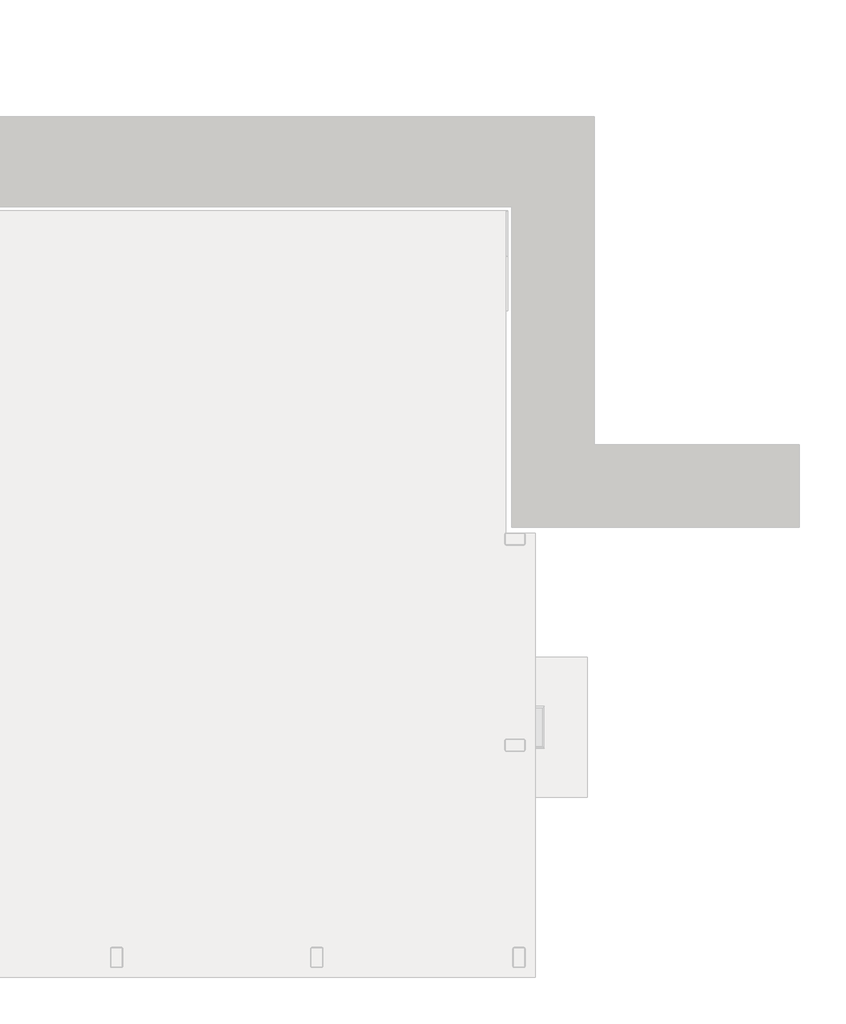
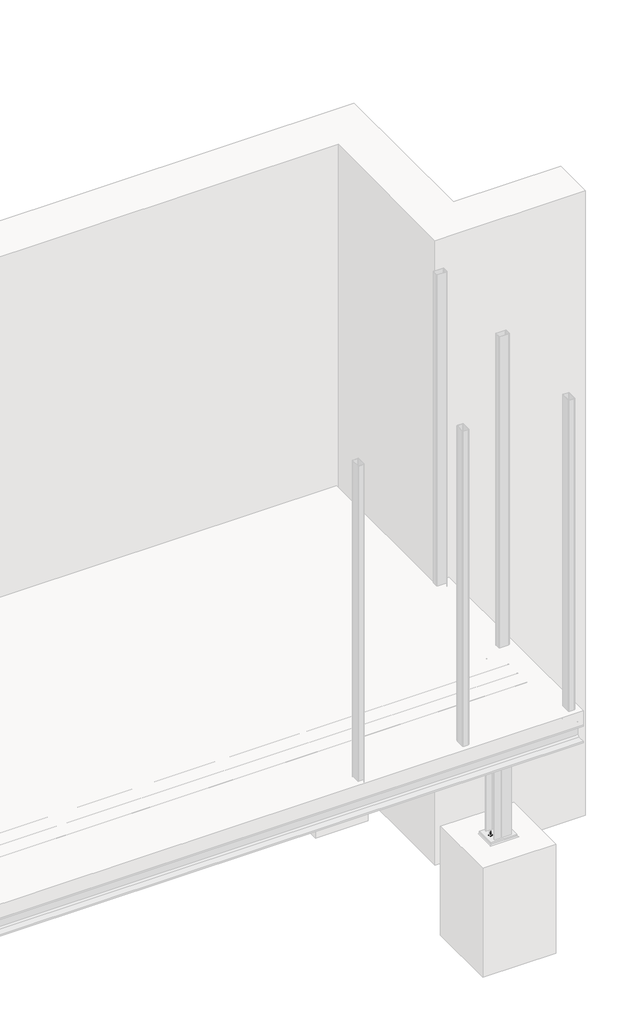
# One storey, part 35 of 36: 6 assemblies.
"""IFC4 building model written with IfcOpenShell, lengths in millimetres."""

from ifc_helpers import new_model, si_unit, point, frame, frame_2d, origin, place, context, project, spatial, polyline, circle_curve, trimmed, segment, composite_curve, outline, extrude, faceted_brep, element, save

model = new_model("IFC4")

# Units and contexts
model_context = context("Model", 3, world=origin())
ifc_project = project(units=[si_unit("LENGTHUNIT", "METRE", prefix="MILLI")], contexts=[model_context])

# Site, building, storey
site = spatial("IfcSite", under=ifc_project)
building = spatial("IfcBuilding", under=site)
storey = spatial("IfcBuildingStorey", under=building, Name="Základy", Elevation=-1200.0)

# Assemblies
placement = place(None, origin())
element("IfcElementAssembly", 1, at=placement, inside=storey, context=model_context, shape_type="SweptSolid", body=[
    extrude(outline(composite_curve([segment(polyline([(16090.0, 1193.6), (16090.0, 1146.4)]), True, "CONTINUOUS"), segment(trimmed(circle_curve(frame_2d((16083.6, 1146.4)), 6.4), [point((16090.0, 1146.4))], [point((16083.6, 1140.0))], False, "CARTESIAN"), True, "CONTINUOUS"), segment(polyline([(16083.6, 1140.0), (15996.4, 1140.0)]), True, "CONTINUOUS"), segment(trimmed(circle_curve(frame_2d((15996.4, 1146.4)), 6.4), [point((15996.4, 1140.0))], [point((15990.0, 1146.4))], False, "CARTESIAN"), True, "CONTINUOUS"), segment(polyline([(15990.0, 1146.4), (15990.0, 1193.6)]), True, "CONTINUOUS"), segment(trimmed(circle_curve(frame_2d((15996.4, 1193.6)), 6.4), [point((15990.0, 1193.6))], [point((15996.4, 1200.0))], False, "CARTESIAN"), True, "CONTINUOUS"), segment(polyline([(15996.4, 1200.0), (16083.6, 1200.0)]), True, "CONTINUOUS"), segment(trimmed(circle_curve(frame_2d((16083.6, 1193.6)), 6.4), [point((16083.6, 1200.0))], [point((16090.0, 1193.6))], False, "CARTESIAN"), True, "CONTINUOUS")], self_intersect=False), holes=[composite_curve([segment(trimmed(circle_curve(frame_2d((16083.6, 1193.6)), 3.2), [point((16086.8, 1193.6))], [point((16083.6, 1196.8))], True, "CARTESIAN"), True, "CONTINUOUS"), segment(polyline([(16083.6, 1196.8), (15996.4, 1196.8)]), True, "CONTINUOUS"), segment(trimmed(circle_curve(frame_2d((15996.4, 1193.6)), 3.2), [point((15996.4, 1196.8))], [point((15993.2, 1193.6))], True, "CARTESIAN"), True, "CONTINUOUS"), segment(polyline([(15993.2, 1193.6), (15993.2, 1146.4)]), True, "CONTINUOUS"), segment(trimmed(circle_curve(frame_2d((15996.4, 1146.4)), 3.2), [point((15993.2, 1146.4))], [point((15996.4, 1143.2))], True, "CARTESIAN"), True, "CONTINUOUS"), segment(polyline([(15996.4, 1143.2), (16083.6, 1143.2)]), True, "CONTINUOUS"), segment(trimmed(circle_curve(frame_2d((16083.6, 1146.4)), 3.2), [point((16083.6, 1143.2))], [point((16086.8, 1146.4))], True, "CARTESIAN"), True, "CONTINUOUS"), segment(polyline([(16086.8, 1146.4), (16086.8, 1193.6)]), True, "CONTINUOUS")], self_intersect=False)]), frame((0.0, 0.0, -160.0), z_axis=(0.0, 0.0, 1.0), x_axis=(1.0, 0.0, 0.0)), (0.0, 0.0, 1.0), 3280.0),
])
element("IfcElementAssembly", 2, at=placement, inside=storey, context=model_context, shape_type="SweptSolid", body=[
    extrude(outline(polyline([(16400.0, 1610.0), (16400.0, 910.0), (15700.0, 910.0), (15700.0, 1610.0), (16400.0, 1610.0)])), frame((0.0, 0.0, -3100.0), z_axis=(0.0, 0.0, 1.0), x_axis=(1.0, 0.0, 0.0)), (0.0, 0.0, 1.0), 1100.0),
])
element("IfcElementAssembly", 3, at=placement, inside=storey, context=model_context, shape_type="SweptSolid", body=[
    extrude(outline(composite_curve([segment(polyline([(16036.4, 160.0), (16083.6, 160.0)]), True, "CONTINUOUS"), segment(trimmed(circle_curve(frame_2d((16083.6, 153.6)), 6.4), [point((16083.6, 160.0))], [point((16090.0, 153.6))], False, "CARTESIAN"), True, "CONTINUOUS"), segment(polyline([(16090.0, 153.6), (16090.0, 66.4)]), True, "CONTINUOUS"), segment(trimmed(circle_curve(frame_2d((16083.6, 66.4)), 6.4), [point((16090.0, 66.4))], [point((16083.6, 60.0))], False, "CARTESIAN"), True, "CONTINUOUS"), segment(polyline([(16083.6, 60.0), (16036.4, 60.0)]), True, "CONTINUOUS"), segment(trimmed(circle_curve(frame_2d((16036.4, 66.4)), 6.4), [point((16036.4, 60.0))], [point((16030.0, 66.4))], False, "CARTESIAN"), True, "CONTINUOUS"), segment(polyline([(16030.0, 66.4), (16030.0, 153.6)]), True, "CONTINUOUS"), segment(trimmed(circle_curve(frame_2d((16036.4, 153.6)), 6.4), [point((16030.0, 153.6))], [point((16036.4, 160.0))], False, "CARTESIAN"), True, "CONTINUOUS")], self_intersect=False), holes=[composite_curve([segment(trimmed(circle_curve(frame_2d((16036.4, 153.6)), 3.2), [point((16036.4, 156.8))], [point((16033.2, 153.6))], True, "CARTESIAN"), True, "CONTINUOUS"), segment(polyline([(16033.2, 153.6), (16033.2, 66.4)]), True, "CONTINUOUS"), segment(trimmed(circle_curve(frame_2d((16036.4, 66.4)), 3.2), [point((16033.2, 66.4))], [point((16036.4, 63.2))], True, "CARTESIAN"), True, "CONTINUOUS"), segment(polyline([(16036.4, 63.2), (16083.6, 63.2)]), True, "CONTINUOUS"), segment(trimmed(circle_curve(frame_2d((16083.6, 66.4)), 3.2), [point((16083.6, 63.2))], [point((16086.8, 66.4))], True, "CARTESIAN"), True, "CONTINUOUS"), segment(polyline([(16086.8, 66.4), (16086.8, 153.6)]), True, "CONTINUOUS"), segment(trimmed(circle_curve(frame_2d((16083.6, 153.6)), 3.2), [point((16086.8, 153.6))], [point((16083.6, 156.8))], True, "CARTESIAN"), True, "CONTINUOUS"), segment(polyline([(16083.6, 156.8), (16036.4, 156.8)]), True, "CONTINUOUS")], self_intersect=False)]), frame((0.0, 0.0, -160.0), z_axis=(0.0, 0.0, 1.0), x_axis=(1.0, 0.0, 0.0)), (0.0, 0.0, 1.0), 3280.0),
])
element("IfcElementAssembly", 4, at=placement, inside=storey, context=model_context, shape_type="SweptSolid", body=[
    extrude(outline(composite_curve([segment(polyline([(16130.0, 1184.0), (15970.0, 1184.0), (15970.0, 1193.0), (16032.0, 1193.0)]), True, "CONTINUOUS"), segment(trimmed(circle_curve(frame_2d((16032.0, 1208.0)), 15.0), [point((16032.0, 1193.0))], [point((16047.0, 1208.0))], True, "CARTESIAN"), True, "CONTINUOUS"), segment(polyline([(16047.0, 1208.0), (16047.0, 1312.0)]), True, "CONTINUOUS"), segment(trimmed(circle_curve(frame_2d((16032.0, 1312.0)), 15.0), [point((16047.0, 1312.0))], [point((16032.0, 1327.0))], True, "CARTESIAN"), True, "CONTINUOUS"), segment(polyline([(16032.0, 1327.0), (15970.0, 1327.0), (15970.0, 1336.0), (16130.0, 1336.0), (16130.0, 1327.0), (16068.0, 1327.0)]), True, "CONTINUOUS"), segment(trimmed(circle_curve(frame_2d((16068.0, 1312.0)), 15.0), [point((16068.0, 1327.0))], [point((16053.0, 1312.0))], True, "CARTESIAN"), True, "CONTINUOUS"), segment(polyline([(16053.0, 1312.0), (16053.0, 1208.0)]), True, "CONTINUOUS"), segment(trimmed(circle_curve(frame_2d((16068.0, 1208.0)), 15.0), [point((16053.0, 1208.0))], [point((16068.0, 1193.0))], True, "CARTESIAN"), True, "CONTINUOUS"), segment(polyline([(16068.0, 1193.0), (16130.0, 1193.0), (16130.0, 1184.0)]), True, "CONTINUOUS")], self_intersect=False)), frame((0.0, 0.0, -1975.0), z_axis=(0.0, 0.0, 1.0), x_axis=(1.0, 0.0, 0.0)), (0.0, 0.0, 1.0), 1625.0),
    extrude(outline(polyline([(16175.0, 1356.0), (16175.0, 1164.0), (15925.0, 1164.0), (15925.0, 1356.0), (16175.0, 1356.0)])), frame((0.0, 0.0, -1990.0), z_axis=(0.0, 0.0, 1.0), x_axis=(1.0, 0.0, 0.0)), (0.0, 0.0, 1.0), 15.0),
    extrude(outline(polyline([(16140.0, 1346.0), (16140.0, 1174.0), (15960.0, 1174.0), (15960.0, 1346.0), (16140.0, 1346.0)])), frame((0.0, 0.0, -350.0), z_axis=(0.0, 0.0, 1.0), x_axis=(1.0, 0.0, 0.0)), (0.0, 0.0, 1.0), 10.0),
    extrude(outline(polyline([(15982.7364934, 1260.0), (15978.8682467, 1253.3000002), (15971.1317533, 1253.3000002), (15967.2635066, 1260.0), (15971.1317533, 1266.6999998), (15978.8682467, 1266.6999998), (15982.7364934, 1260.0)])), frame((0.0, 0.0, -2122.0), z_axis=(0.0, 0.0, 1.0), x_axis=(1.0, 0.0, 0.0)), (0.0, 0.0, 1.0), 132.0),
    extrude(outline(composite_curve([segment(trimmed(circle_curve(frame_2d((15975.0, 1260.0)), 8.0), [point((15983.0, 1260.0))], [point((15967.0, 1260.0))], False, "CARTESIAN"), True, "CONTINUOUS"), segment(trimmed(circle_curve(frame_2d((15975.0, 1260.0)), 8.0), [point((15967.0, 1260.0))], [point((15983.0, 1260.0))], False, "CARTESIAN"), True, "CONTINUOUS")], self_intersect=False)), frame((0.0, 0.0, -1990.0), z_axis=(0.0, 0.0, 1.0), x_axis=(1.0, 0.0, 0.0)), (0.0, 0.0, 1.0), 58.0),
    extrude(outline(composite_curve([segment(trimmed(circle_curve(frame_2d((15975.0, 1260.0)), 15.0), [point((15990.0, 1260.0))], [point((15960.0, 1260.0))], False, "CARTESIAN"), True, "CONTINUOUS"), segment(trimmed(circle_curve(frame_2d((15975.0, 1260.0)), 15.0), [point((15960.0, 1260.0))], [point((15990.0, 1260.0))], False, "CARTESIAN"), True, "CONTINUOUS")], self_intersect=False)), frame((0.0, 0.0, -1975.0), z_axis=(0.0, 0.0, 1.0), x_axis=(1.0, 0.0, 0.0)), (0.0, 0.0, 1.0), 3.0),
    extrude(outline(polyline([(15990.4441197, 1260.0), (15982.7220599, 1246.625), (15967.2779401, 1246.625), (15959.5558803, 1260.0), (15967.2779401, 1273.375), (15982.7220599, 1273.375), (15990.4441197, 1260.0)])), frame((0.0, 0.0, -1972.0), z_axis=(0.0, 0.0, 1.0), x_axis=(1.0, 0.0, 0.0)), (0.0, 0.0, 1.0), 13.0),
    extrude(outline(composite_curve([segment(trimmed(circle_curve(frame_2d((15975.0, 1260.0)), 9.0), [point((15984.0, 1260.0))], [point((15966.0, 1260.0))], False, "CARTESIAN"), True, "CONTINUOUS"), segment(trimmed(circle_curve(frame_2d((15975.0, 1260.0)), 9.0), [point((15966.0, 1260.0))], [point((15984.0, 1260.0))], False, "CARTESIAN"), True, "CONTINUOUS")], self_intersect=False)), frame((0.0, 0.0, -1990.0), z_axis=(0.0, 0.0, 1.0), x_axis=(1.0, 0.0, 0.0)), (0.0, 0.0, 1.0), 15.1),
    extrude(outline(polyline([(16132.7364934, 1260.0), (16128.8682467, 1253.3000002), (16121.1317533, 1253.3000002), (16117.2635066, 1260.0), (16121.1317533, 1266.6999998), (16128.8682467, 1266.6999998), (16132.7364934, 1260.0)])), frame((0.0, 0.0, -2122.0), z_axis=(0.0, 0.0, 1.0), x_axis=(1.0, 0.0, 0.0)), (0.0, 0.0, 1.0), 132.0),
    extrude(outline(composite_curve([segment(trimmed(circle_curve(frame_2d((16125.0, 1260.0)), 8.0), [point((16133.0, 1260.0))], [point((16117.0, 1260.0))], False, "CARTESIAN"), True, "CONTINUOUS"), segment(trimmed(circle_curve(frame_2d((16125.0, 1260.0)), 8.0), [point((16117.0, 1260.0))], [point((16133.0, 1260.0))], False, "CARTESIAN"), True, "CONTINUOUS")], self_intersect=False)), frame((0.0, 0.0, -1990.0), z_axis=(0.0, 0.0, 1.0), x_axis=(1.0, 0.0, 0.0)), (0.0, 0.0, 1.0), 58.0),
    extrude(outline(composite_curve([segment(trimmed(circle_curve(frame_2d((16125.0, 1260.0)), 15.0), [point((16140.0, 1260.0))], [point((16110.0, 1260.0))], False, "CARTESIAN"), True, "CONTINUOUS"), segment(trimmed(circle_curve(frame_2d((16125.0, 1260.0)), 15.0), [point((16110.0, 1260.0))], [point((16140.0, 1260.0))], False, "CARTESIAN"), True, "CONTINUOUS")], self_intersect=False)), frame((0.0, 0.0, -1975.0), z_axis=(0.0, 0.0, 1.0), x_axis=(1.0, 0.0, 0.0)), (0.0, 0.0, 1.0), 3.0),
    extrude(outline(polyline([(16140.4441197, 1260.0), (16132.7220599, 1246.625), (16117.2779401, 1246.625), (16109.5558803, 1260.0), (16117.2779401, 1273.375), (16132.7220599, 1273.375), (16140.4441197, 1260.0)])), frame((0.0, 0.0, -1972.0), z_axis=(0.0, 0.0, 1.0), x_axis=(1.0, 0.0, 0.0)), (0.0, 0.0, 1.0), 13.0),
    extrude(outline(composite_curve([segment(trimmed(circle_curve(frame_2d((16125.0, 1260.0)), 9.0), [point((16134.0, 1260.0))], [point((16116.0, 1260.0))], False, "CARTESIAN"), True, "CONTINUOUS"), segment(trimmed(circle_curve(frame_2d((16125.0, 1260.0)), 9.0), [point((16116.0, 1260.0))], [point((16134.0, 1260.0))], False, "CARTESIAN"), True, "CONTINUOUS")], self_intersect=False)), frame((0.0, 0.0, -1990.0), z_axis=(0.0, 0.0, 1.0), x_axis=(1.0, 0.0, 0.0)), (0.0, 0.0, 1.0), 15.1),
    extrude(outline(composite_curve([segment(trimmed(circle_curve(frame_2d((16000.0, 1220.0)), 6.5), [point((16006.5, 1220.0))], [point((15993.5, 1220.0))], False, "CARTESIAN"), True, "CONTINUOUS"), segment(trimmed(circle_curve(frame_2d((16000.0, 1220.0)), 6.5), [point((15993.5, 1220.0))], [point((16006.5, 1220.0))], False, "CARTESIAN"), True, "CONTINUOUS")], self_intersect=False)), frame((0.0, 0.0, -350.0), z_axis=(0.0, 0.0, 1.0), x_axis=(1.0, 0.0, 0.0)), (0.0, 0.0, 1.0), 10.1),
    extrude(outline(polyline([(16010.3923048, 1220.0), (16005.1961524, 1211.0), (15994.8038476, 1211.0), (15989.6076952, 1220.0), (15994.8038476, 1229.0), (16005.1961524, 1229.0), (16010.3923048, 1220.0)])), frame((0.0, 0.0, -323.5), z_axis=(0.0, 0.0, 1.0), x_axis=(1.0, 0.0, 0.0)), (0.0, 0.0, 1.0), 7.5),
    extrude(outline(composite_curve([segment(trimmed(circle_curve(frame_2d((16000.0, 1220.0)), 6.0), [point((16006.0, 1220.0))], [point((15994.0, 1220.0))], False, "CARTESIAN"), True, "CONTINUOUS"), segment(trimmed(circle_curve(frame_2d((16000.0, 1220.0)), 6.0), [point((15994.0, 1220.0))], [point((16006.0, 1220.0))], False, "CARTESIAN"), True, "CONTINUOUS")], self_intersect=False)), frame((0.0, 0.0, -368.5), z_axis=(0.0, 0.0, 1.0), x_axis=(1.0, 0.0, 0.0)), (0.0, 0.0, 1.0), 45.0),
    extrude(outline(composite_curve([segment(trimmed(circle_curve(frame_2d((16000.0, 1220.0)), 12.0), [point((16012.0, 1220.0))], [point((15988.0, 1220.0))], False, "CARTESIAN"), True, "CONTINUOUS"), segment(trimmed(circle_curve(frame_2d((16000.0, 1220.0)), 12.0), [point((15988.0, 1220.0))], [point((16012.0, 1220.0))], False, "CARTESIAN"), True, "CONTINUOUS")], self_intersect=False)), frame((0.0, 0.0, -326.0), z_axis=(0.0, 0.0, 1.0), x_axis=(1.0, 0.0, 0.0)), (0.0, 0.0, 1.0), 2.5),
    extrude(outline(composite_curve([segment(trimmed(circle_curve(frame_2d((16000.0, 1220.0)), 12.0), [point((16012.0, 1220.0))], [point((15988.0, 1220.0))], False, "CARTESIAN"), True, "CONTINUOUS"), segment(trimmed(circle_curve(frame_2d((16000.0, 1220.0)), 12.0), [point((15988.0, 1220.0))], [point((16012.0, 1220.0))], False, "CARTESIAN"), True, "CONTINUOUS")], self_intersect=False)), frame((0.0, 0.0, -352.5), z_axis=(0.0, 0.0, 1.0), x_axis=(1.0, 0.0, 0.0)), (0.0, 0.0, 1.0), 2.5),
    extrude(outline(polyline([(16010.9696551, 1220.0), (16005.4848276, 1210.5), (15994.5151724, 1210.5), (15989.0303449, 1220.0), (15994.5151724, 1229.5), (16005.4848276, 1229.5), (16010.9696551, 1220.0)])), frame((0.0, 0.0, -362.5), z_axis=(0.0, 0.0, 1.0), x_axis=(1.0, 0.0, 0.0)), (0.0, 0.0, 1.0), 10.0),
    extrude(outline(composite_curve([segment(trimmed(circle_curve(frame_2d((16000.0, 1220.0)), 6.5), [point((16006.5, 1220.0))], [point((15993.5, 1220.0))], False, "CARTESIAN"), True, "CONTINUOUS"), segment(trimmed(circle_curve(frame_2d((16000.0, 1220.0)), 6.5), [point((15993.5, 1220.0))], [point((16006.5, 1220.0))], False, "CARTESIAN"), True, "CONTINUOUS")], self_intersect=False)), frame((0.0, 0.0, -340.1), z_axis=(0.0, 0.0, 1.0), x_axis=(1.0, 0.0, 0.0)), (0.0, 0.0, 1.0), 14.0),
    extrude(outline(composite_curve([segment(trimmed(circle_curve(frame_2d((16100.0, 1220.0)), 6.5), [point((16106.5, 1220.0))], [point((16093.5, 1220.0))], False, "CARTESIAN"), True, "CONTINUOUS"), segment(trimmed(circle_curve(frame_2d((16100.0, 1220.0)), 6.5), [point((16093.5, 1220.0))], [point((16106.5, 1220.0))], False, "CARTESIAN"), True, "CONTINUOUS")], self_intersect=False)), frame((0.0, 0.0, -350.0), z_axis=(0.0, 0.0, 1.0), x_axis=(1.0, 0.0, 0.0)), (0.0, 0.0, 1.0), 10.1),
    extrude(outline(polyline([(16110.3923048, 1220.0), (16105.1961524, 1211.0), (16094.8038476, 1211.0), (16089.6076952, 1220.0), (16094.8038476, 1229.0), (16105.1961524, 1229.0), (16110.3923048, 1220.0)])), frame((0.0, 0.0, -323.5), z_axis=(0.0, 0.0, 1.0), x_axis=(1.0, 0.0, 0.0)), (0.0, 0.0, 1.0), 7.5),
    extrude(outline(composite_curve([segment(trimmed(circle_curve(frame_2d((16100.0, 1220.0)), 6.0), [point((16106.0, 1220.0))], [point((16094.0, 1220.0))], False, "CARTESIAN"), True, "CONTINUOUS"), segment(trimmed(circle_curve(frame_2d((16100.0, 1220.0)), 6.0), [point((16094.0, 1220.0))], [point((16106.0, 1220.0))], False, "CARTESIAN"), True, "CONTINUOUS")], self_intersect=False)), frame((0.0, 0.0, -368.5), z_axis=(0.0, 0.0, 1.0), x_axis=(1.0, 0.0, 0.0)), (0.0, 0.0, 1.0), 45.0),
    extrude(outline(composite_curve([segment(trimmed(circle_curve(frame_2d((16100.0, 1220.0)), 12.0), [point((16112.0, 1220.0))], [point((16088.0, 1220.0))], False, "CARTESIAN"), True, "CONTINUOUS"), segment(trimmed(circle_curve(frame_2d((16100.0, 1220.0)), 12.0), [point((16088.0, 1220.0))], [point((16112.0, 1220.0))], False, "CARTESIAN"), True, "CONTINUOUS")], self_intersect=False)), frame((0.0, 0.0, -326.0), z_axis=(0.0, 0.0, 1.0), x_axis=(1.0, 0.0, 0.0)), (0.0, 0.0, 1.0), 2.5),
    extrude(outline(composite_curve([segment(trimmed(circle_curve(frame_2d((16100.0, 1220.0)), 12.0), [point((16112.0, 1220.0))], [point((16088.0, 1220.0))], False, "CARTESIAN"), True, "CONTINUOUS"), segment(trimmed(circle_curve(frame_2d((16100.0, 1220.0)), 12.0), [point((16088.0, 1220.0))], [point((16112.0, 1220.0))], False, "CARTESIAN"), True, "CONTINUOUS")], self_intersect=False)), frame((0.0, 0.0, -352.5), z_axis=(0.0, 0.0, 1.0), x_axis=(1.0, 0.0, 0.0)), (0.0, 0.0, 1.0), 2.5),
    extrude(outline(polyline([(16110.9696551, 1220.0), (16105.4848276, 1210.5), (16094.5151724, 1210.5), (16089.0303449, 1220.0), (16094.5151724, 1229.5), (16105.4848276, 1229.5), (16110.9696551, 1220.0)])), frame((0.0, 0.0, -362.5), z_axis=(0.0, 0.0, 1.0), x_axis=(1.0, 0.0, 0.0)), (0.0, 0.0, 1.0), 10.0),
    extrude(outline(composite_curve([segment(trimmed(circle_curve(frame_2d((16100.0, 1220.0)), 6.5), [point((16106.5, 1220.0))], [point((16093.5, 1220.0))], False, "CARTESIAN"), True, "CONTINUOUS"), segment(trimmed(circle_curve(frame_2d((16100.0, 1220.0)), 6.5), [point((16093.5, 1220.0))], [point((16106.5, 1220.0))], False, "CARTESIAN"), True, "CONTINUOUS")], self_intersect=False)), frame((0.0, 0.0, -340.1), z_axis=(0.0, 0.0, 1.0), x_axis=(1.0, 0.0, 0.0)), (0.0, 0.0, 1.0), 14.0),
    extrude(outline(composite_curve([segment(trimmed(circle_curve(frame_2d((16000.0, 1300.0)), 6.5), [point((16006.5, 1300.0))], [point((15993.5, 1300.0))], False, "CARTESIAN"), True, "CONTINUOUS"), segment(trimmed(circle_curve(frame_2d((16000.0, 1300.0)), 6.5), [point((15993.5, 1300.0))], [point((16006.5, 1300.0))], False, "CARTESIAN"), True, "CONTINUOUS")], self_intersect=False)), frame((0.0, 0.0, -350.0), z_axis=(0.0, 0.0, 1.0), x_axis=(1.0, 0.0, 0.0)), (0.0, 0.0, 1.0), 10.1),
    extrude(outline(polyline([(16010.3923048, 1300.0), (16005.1961524, 1291.0), (15994.8038476, 1291.0), (15989.6076952, 1300.0), (15994.8038476, 1309.0), (16005.1961524, 1309.0), (16010.3923048, 1300.0)])), frame((0.0, 0.0, -323.5), z_axis=(0.0, 0.0, 1.0), x_axis=(1.0, 0.0, 0.0)), (0.0, 0.0, 1.0), 7.5),
    extrude(outline(composite_curve([segment(trimmed(circle_curve(frame_2d((16000.0, 1300.0)), 6.0), [point((16006.0, 1300.0))], [point((15994.0, 1300.0))], False, "CARTESIAN"), True, "CONTINUOUS"), segment(trimmed(circle_curve(frame_2d((16000.0, 1300.0)), 6.0), [point((15994.0, 1300.0))], [point((16006.0, 1300.0))], False, "CARTESIAN"), True, "CONTINUOUS")], self_intersect=False)), frame((0.0, 0.0, -368.5), z_axis=(0.0, 0.0, 1.0), x_axis=(1.0, 0.0, 0.0)), (0.0, 0.0, 1.0), 45.0),
    extrude(outline(composite_curve([segment(trimmed(circle_curve(frame_2d((16000.0, 1300.0)), 12.0), [point((16012.0, 1300.0))], [point((15988.0, 1300.0))], False, "CARTESIAN"), True, "CONTINUOUS"), segment(trimmed(circle_curve(frame_2d((16000.0, 1300.0)), 12.0), [point((15988.0, 1300.0))], [point((16012.0, 1300.0))], False, "CARTESIAN"), True, "CONTINUOUS")], self_intersect=False)), frame((0.0, 0.0, -326.0), z_axis=(0.0, 0.0, 1.0), x_axis=(1.0, 0.0, 0.0)), (0.0, 0.0, 1.0), 2.5),
    extrude(outline(composite_curve([segment(trimmed(circle_curve(frame_2d((16000.0, 1300.0)), 12.0), [point((16012.0, 1300.0))], [point((15988.0, 1300.0))], False, "CARTESIAN"), True, "CONTINUOUS"), segment(trimmed(circle_curve(frame_2d((16000.0, 1300.0)), 12.0), [point((15988.0, 1300.0))], [point((16012.0, 1300.0))], False, "CARTESIAN"), True, "CONTINUOUS")], self_intersect=False)), frame((0.0, 0.0, -352.5), z_axis=(0.0, 0.0, 1.0), x_axis=(1.0, 0.0, 0.0)), (0.0, 0.0, 1.0), 2.5),
    extrude(outline(polyline([(16010.9696551, 1300.0), (16005.4848276, 1290.5), (15994.5151724, 1290.5), (15989.0303449, 1300.0), (15994.5151724, 1309.5), (16005.4848276, 1309.5), (16010.9696551, 1300.0)])), frame((0.0, 0.0, -362.5), z_axis=(0.0, 0.0, 1.0), x_axis=(1.0, 0.0, 0.0)), (0.0, 0.0, 1.0), 10.0),
    extrude(outline(composite_curve([segment(trimmed(circle_curve(frame_2d((16000.0, 1300.0)), 6.5), [point((16006.5, 1300.0))], [point((15993.5, 1300.0))], False, "CARTESIAN"), True, "CONTINUOUS"), segment(trimmed(circle_curve(frame_2d((16000.0, 1300.0)), 6.5), [point((15993.5, 1300.0))], [point((16006.5, 1300.0))], False, "CARTESIAN"), True, "CONTINUOUS")], self_intersect=False)), frame((0.0, 0.0, -340.1), z_axis=(0.0, 0.0, 1.0), x_axis=(1.0, 0.0, 0.0)), (0.0, 0.0, 1.0), 14.0),
    extrude(outline(composite_curve([segment(trimmed(circle_curve(frame_2d((16100.0, 1300.0)), 6.5), [point((16106.5, 1300.0))], [point((16093.5, 1300.0))], False, "CARTESIAN"), True, "CONTINUOUS"), segment(trimmed(circle_curve(frame_2d((16100.0, 1300.0)), 6.5), [point((16093.5, 1300.0))], [point((16106.5, 1300.0))], False, "CARTESIAN"), True, "CONTINUOUS")], self_intersect=False)), frame((0.0, 0.0, -350.0), z_axis=(0.0, 0.0, 1.0), x_axis=(1.0, 0.0, 0.0)), (0.0, 0.0, 1.0), 10.1),
    extrude(outline(polyline([(16110.3923048, 1300.0), (16105.1961524, 1291.0), (16094.8038476, 1291.0), (16089.6076952, 1300.0), (16094.8038476, 1309.0), (16105.1961524, 1309.0), (16110.3923048, 1300.0)])), frame((0.0, 0.0, -323.5), z_axis=(0.0, 0.0, 1.0), x_axis=(1.0, 0.0, 0.0)), (0.0, 0.0, 1.0), 7.5),
    extrude(outline(composite_curve([segment(trimmed(circle_curve(frame_2d((16100.0, 1300.0)), 6.0), [point((16106.0, 1300.0))], [point((16094.0, 1300.0))], False, "CARTESIAN"), True, "CONTINUOUS"), segment(trimmed(circle_curve(frame_2d((16100.0, 1300.0)), 6.0), [point((16094.0, 1300.0))], [point((16106.0, 1300.0))], False, "CARTESIAN"), True, "CONTINUOUS")], self_intersect=False)), frame((0.0, 0.0, -368.5), z_axis=(0.0, 0.0, 1.0), x_axis=(1.0, 0.0, 0.0)), (0.0, 0.0, 1.0), 45.0),
    extrude(outline(composite_curve([segment(trimmed(circle_curve(frame_2d((16100.0, 1300.0)), 12.0), [point((16112.0, 1300.0))], [point((16088.0, 1300.0))], False, "CARTESIAN"), True, "CONTINUOUS"), segment(trimmed(circle_curve(frame_2d((16100.0, 1300.0)), 12.0), [point((16088.0, 1300.0))], [point((16112.0, 1300.0))], False, "CARTESIAN"), True, "CONTINUOUS")], self_intersect=False)), frame((0.0, 0.0, -326.0), z_axis=(0.0, 0.0, 1.0), x_axis=(1.0, 0.0, 0.0)), (0.0, 0.0, 1.0), 2.5),
    extrude(outline(composite_curve([segment(trimmed(circle_curve(frame_2d((16100.0, 1300.0)), 12.0), [point((16112.0, 1300.0))], [point((16088.0, 1300.0))], False, "CARTESIAN"), True, "CONTINUOUS"), segment(trimmed(circle_curve(frame_2d((16100.0, 1300.0)), 12.0), [point((16088.0, 1300.0))], [point((16112.0, 1300.0))], False, "CARTESIAN"), True, "CONTINUOUS")], self_intersect=False)), frame((0.0, 0.0, -352.5), z_axis=(0.0, 0.0, 1.0), x_axis=(1.0, 0.0, 0.0)), (0.0, 0.0, 1.0), 2.5),
    extrude(outline(polyline([(16110.9696551, 1300.0), (16105.4848276, 1290.5), (16094.5151724, 1290.5), (16089.0303449, 1300.0), (16094.5151724, 1309.5), (16105.4848276, 1309.5), (16110.9696551, 1300.0)])), frame((0.0, 0.0, -362.5), z_axis=(0.0, 0.0, 1.0), x_axis=(1.0, 0.0, 0.0)), (0.0, 0.0, 1.0), 10.0),
    extrude(outline(composite_curve([segment(trimmed(circle_curve(frame_2d((16100.0, 1300.0)), 6.5), [point((16106.5, 1300.0))], [point((16093.5, 1300.0))], False, "CARTESIAN"), True, "CONTINUOUS"), segment(trimmed(circle_curve(frame_2d((16100.0, 1300.0)), 6.5), [point((16093.5, 1300.0))], [point((16106.5, 1300.0))], False, "CARTESIAN"), True, "CONTINUOUS")], self_intersect=False)), frame((0.0, 0.0, -340.1), z_axis=(0.0, 0.0, 1.0), x_axis=(1.0, 0.0, 0.0)), (0.0, 0.0, 1.0), 14.0),
])
element("IfcElementAssembly", 5, at=placement, inside=storey, context=model_context, shape_type="SweptSolid", body=[
    extrude(outline(composite_curve([segment(polyline([(15945.0, 3700.0), (15865.0, 3700.0)]), True, "CONTINUOUS"), segment(trimmed(circle_curve(frame_2d((15865.0, 3710.0)), 10.0), [point((15865.0, 3700.0))], [point((15855.0, 3710.0))], False, "CARTESIAN"), True, "CONTINUOUS"), segment(polyline([(15855.0, 3710.0), (15855.0, 3790.0)]), True, "CONTINUOUS"), segment(trimmed(circle_curve(frame_2d((15865.0, 3790.0)), 10.0), [point((15855.0, 3790.0))], [point((15865.0, 3800.0))], False, "CARTESIAN"), True, "CONTINUOUS"), segment(polyline([(15865.0, 3800.0), (15945.0, 3800.0)]), True, "CONTINUOUS"), segment(trimmed(circle_curve(frame_2d((15945.0, 3790.0)), 10.0), [point((15945.0, 3800.0))], [point((15955.0, 3790.0))], False, "CARTESIAN"), True, "CONTINUOUS"), segment(polyline([(15955.0, 3790.0), (15955.0, 3710.0)]), True, "CONTINUOUS"), segment(trimmed(circle_curve(frame_2d((15945.0, 3710.0)), 10.0), [point((15955.0, 3710.0))], [point((15945.0, 3700.0))], False, "CARTESIAN"), True, "CONTINUOUS")], self_intersect=False), holes=[composite_curve([segment(trimmed(circle_curve(frame_2d((15945.0, 3710.0)), 5.0), [point((15945.0, 3705.0))], [point((15950.0, 3710.0))], True, "CARTESIAN"), True, "CONTINUOUS"), segment(polyline([(15950.0, 3710.0), (15950.0, 3790.0)]), True, "CONTINUOUS"), segment(trimmed(circle_curve(frame_2d((15945.0, 3790.0)), 5.0), [point((15950.0, 3790.0))], [point((15945.0, 3795.0))], True, "CARTESIAN"), True, "CONTINUOUS"), segment(polyline([(15945.0, 3795.0), (15865.0, 3795.0)]), True, "CONTINUOUS"), segment(trimmed(circle_curve(frame_2d((15865.0, 3790.0)), 5.0), [point((15865.0, 3795.0))], [point((15860.0, 3790.0))], True, "CARTESIAN"), True, "CONTINUOUS"), segment(polyline([(15860.0, 3790.0), (15860.0, 3710.0)]), True, "CONTINUOUS"), segment(trimmed(circle_curve(frame_2d((15865.0, 3710.0)), 5.0), [point((15860.0, 3710.0))], [point((15865.0, 3705.0))], True, "CARTESIAN"), True, "CONTINUOUS"), segment(polyline([(15865.0, 3705.0), (15945.0, 3705.0)]), True, "CONTINUOUS")], self_intersect=False)]), frame((0.0, 0.0, -1975.0), z_axis=(0.0, 0.0, 1.0), x_axis=(1.0, 0.0, 0.0)), (0.0, 0.0, 1.0), 1625.0),
    extrude(outline(polyline([(15995.0, 3810.0), (15995.0, 3690.0), (15815.0, 3690.0), (15815.0, 3810.0), (15995.0, 3810.0)])), frame((0.0, 0.0, -350.0), z_axis=(0.0, 0.0, 1.0), x_axis=(1.0, 0.0, 0.0)), (0.0, 0.0, 1.0), 10.0),
    extrude(outline(polyline([(15995.0, 3830.0), (15995.0, 3620.0), (15775.0, 3620.0), (15775.0, 3830.0), (15995.0, 3830.0)])), frame((0.0, 0.0, -1990.0), z_axis=(0.0, 0.0, 1.0), x_axis=(1.0, 0.0, 0.0)), (0.0, 0.0, 1.0), 15.0),
    extrude(outline(composite_curve([segment(trimmed(circle_curve(frame_2d((15835.0, 3750.0)), 6.5), [point((15841.5, 3750.0))], [point((15828.5, 3750.0))], False, "CARTESIAN"), True, "CONTINUOUS"), segment(trimmed(circle_curve(frame_2d((15835.0, 3750.0)), 6.5), [point((15828.5, 3750.0))], [point((15841.5, 3750.0))], False, "CARTESIAN"), True, "CONTINUOUS")], self_intersect=False)), frame((0.0, 0.0, -350.0), z_axis=(0.0, 0.0, 1.0), x_axis=(1.0, 0.0, 0.0)), (0.0, 0.0, 1.0), 10.1),
    extrude(outline(polyline([(15845.3923048, 3750.0), (15840.1961524, 3741.0), (15829.8038476, 3741.0), (15824.6076952, 3750.0), (15829.8038476, 3759.0), (15840.1961524, 3759.0), (15845.3923048, 3750.0)])), frame((0.0, 0.0, -323.5), z_axis=(0.0, 0.0, 1.0), x_axis=(1.0, 0.0, 0.0)), (0.0, 0.0, 1.0), 7.5),
    extrude(outline(composite_curve([segment(trimmed(circle_curve(frame_2d((15835.0, 3750.0)), 6.0), [point((15841.0, 3750.0))], [point((15829.0, 3750.0))], False, "CARTESIAN"), True, "CONTINUOUS"), segment(trimmed(circle_curve(frame_2d((15835.0, 3750.0)), 6.0), [point((15829.0, 3750.0))], [point((15841.0, 3750.0))], False, "CARTESIAN"), True, "CONTINUOUS")], self_intersect=False)), frame((0.0, 0.0, -368.5), z_axis=(0.0, 0.0, 1.0), x_axis=(1.0, 0.0, 0.0)), (0.0, 0.0, 1.0), 45.0),
    extrude(outline(composite_curve([segment(trimmed(circle_curve(frame_2d((15835.0, 3750.0)), 12.0), [point((15847.0, 3750.0))], [point((15823.0, 3750.0))], False, "CARTESIAN"), True, "CONTINUOUS"), segment(trimmed(circle_curve(frame_2d((15835.0, 3750.0)), 12.0), [point((15823.0, 3750.0))], [point((15847.0, 3750.0))], False, "CARTESIAN"), True, "CONTINUOUS")], self_intersect=False)), frame((0.0, 0.0, -326.0), z_axis=(0.0, 0.0, 1.0), x_axis=(1.0, 0.0, 0.0)), (0.0, 0.0, 1.0), 2.5),
    extrude(outline(composite_curve([segment(trimmed(circle_curve(frame_2d((15835.0, 3750.0)), 12.0), [point((15847.0, 3750.0))], [point((15823.0, 3750.0))], False, "CARTESIAN"), True, "CONTINUOUS"), segment(trimmed(circle_curve(frame_2d((15835.0, 3750.0)), 12.0), [point((15823.0, 3750.0))], [point((15847.0, 3750.0))], False, "CARTESIAN"), True, "CONTINUOUS")], self_intersect=False)), frame((0.0, 0.0, -352.5), z_axis=(0.0, 0.0, 1.0), x_axis=(1.0, 0.0, 0.0)), (0.0, 0.0, 1.0), 2.5),
    extrude(outline(polyline([(15845.9696551, 3750.0), (15840.4848276, 3740.5), (15829.5151724, 3740.5), (15824.0303449, 3750.0), (15829.5151724, 3759.5), (15840.4848276, 3759.5), (15845.9696551, 3750.0)])), frame((0.0, 0.0, -362.5), z_axis=(0.0, 0.0, 1.0), x_axis=(1.0, 0.0, 0.0)), (0.0, 0.0, 1.0), 10.0),
    extrude(outline(composite_curve([segment(trimmed(circle_curve(frame_2d((15835.0, 3750.0)), 6.5), [point((15841.5, 3750.0))], [point((15828.5, 3750.0))], False, "CARTESIAN"), True, "CONTINUOUS"), segment(trimmed(circle_curve(frame_2d((15835.0, 3750.0)), 6.5), [point((15828.5, 3750.0))], [point((15841.5, 3750.0))], False, "CARTESIAN"), True, "CONTINUOUS")], self_intersect=False)), frame((0.0, 0.0, -340.1), z_axis=(0.0, 0.0, 1.0), x_axis=(1.0, 0.0, 0.0)), (0.0, 0.0, 1.0), 14.0),
    extrude(outline(composite_curve([segment(trimmed(circle_curve(frame_2d((15975.0, 3750.0)), 6.5), [point((15981.5, 3750.0))], [point((15968.5, 3750.0))], False, "CARTESIAN"), True, "CONTINUOUS"), segment(trimmed(circle_curve(frame_2d((15975.0, 3750.0)), 6.5), [point((15968.5, 3750.0))], [point((15981.5, 3750.0))], False, "CARTESIAN"), True, "CONTINUOUS")], self_intersect=False)), frame((0.0, 0.0, -350.0), z_axis=(0.0, 0.0, 1.0), x_axis=(1.0, 0.0, 0.0)), (0.0, 0.0, 1.0), 10.1),
    extrude(outline(polyline([(15985.3923048, 3750.0), (15980.1961524, 3741.0), (15969.8038476, 3741.0), (15964.6076952, 3750.0), (15969.8038476, 3759.0), (15980.1961524, 3759.0), (15985.3923048, 3750.0)])), frame((0.0, 0.0, -323.5), z_axis=(0.0, 0.0, 1.0), x_axis=(1.0, 0.0, 0.0)), (0.0, 0.0, 1.0), 7.5),
    extrude(outline(composite_curve([segment(trimmed(circle_curve(frame_2d((15975.0, 3750.0)), 6.0), [point((15981.0, 3750.0))], [point((15969.0, 3750.0))], False, "CARTESIAN"), True, "CONTINUOUS"), segment(trimmed(circle_curve(frame_2d((15975.0, 3750.0)), 6.0), [point((15969.0, 3750.0))], [point((15981.0, 3750.0))], False, "CARTESIAN"), True, "CONTINUOUS")], self_intersect=False)), frame((0.0, 0.0, -368.5), z_axis=(0.0, 0.0, 1.0), x_axis=(1.0, 0.0, 0.0)), (0.0, 0.0, 1.0), 45.0),
    extrude(outline(composite_curve([segment(trimmed(circle_curve(frame_2d((15975.0, 3750.0)), 12.0), [point((15987.0, 3750.0))], [point((15963.0, 3750.0))], False, "CARTESIAN"), True, "CONTINUOUS"), segment(trimmed(circle_curve(frame_2d((15975.0, 3750.0)), 12.0), [point((15963.0, 3750.0))], [point((15987.0, 3750.0))], False, "CARTESIAN"), True, "CONTINUOUS")], self_intersect=False)), frame((0.0, 0.0, -326.0), z_axis=(0.0, 0.0, 1.0), x_axis=(1.0, 0.0, 0.0)), (0.0, 0.0, 1.0), 2.5),
    extrude(outline(composite_curve([segment(trimmed(circle_curve(frame_2d((15975.0, 3750.0)), 12.0), [point((15987.0, 3750.0))], [point((15963.0, 3750.0))], False, "CARTESIAN"), True, "CONTINUOUS"), segment(trimmed(circle_curve(frame_2d((15975.0, 3750.0)), 12.0), [point((15963.0, 3750.0))], [point((15987.0, 3750.0))], False, "CARTESIAN"), True, "CONTINUOUS")], self_intersect=False)), frame((0.0, 0.0, -352.5), z_axis=(0.0, 0.0, 1.0), x_axis=(1.0, 0.0, 0.0)), (0.0, 0.0, 1.0), 2.5),
    extrude(outline(polyline([(15985.9696551, 3750.0), (15980.4848276, 3740.5), (15969.5151724, 3740.5), (15964.0303449, 3750.0), (15969.5151724, 3759.5), (15980.4848276, 3759.5), (15985.9696551, 3750.0)])), frame((0.0, 0.0, -362.5), z_axis=(0.0, 0.0, 1.0), x_axis=(1.0, 0.0, 0.0)), (0.0, 0.0, 1.0), 10.0),
    extrude(outline(composite_curve([segment(trimmed(circle_curve(frame_2d((15975.0, 3750.0)), 6.5), [point((15981.5, 3750.0))], [point((15968.5, 3750.0))], False, "CARTESIAN"), True, "CONTINUOUS"), segment(trimmed(circle_curve(frame_2d((15975.0, 3750.0)), 6.5), [point((15968.5, 3750.0))], [point((15981.5, 3750.0))], False, "CARTESIAN"), True, "CONTINUOUS")], self_intersect=False)), frame((0.0, 0.0, -340.1), z_axis=(0.0, 0.0, 1.0), x_axis=(1.0, 0.0, 0.0)), (0.0, 0.0, 1.0), 14.0),
    extrude(outline(polyline([(15822.7364934, 3750.0), (15818.8682467, 3743.3000002), (15811.1317533, 3743.3000002), (15807.2635066, 3750.0), (15811.1317533, 3756.6999998), (15818.8682467, 3756.6999998), (15822.7364934, 3750.0)])), frame((0.0, 0.0, -2122.0), z_axis=(0.0, 0.0, 1.0), x_axis=(1.0, 0.0, 0.0)), (0.0, 0.0, 1.0), 132.0),
    extrude(outline(composite_curve([segment(trimmed(circle_curve(frame_2d((15815.0, 3750.0)), 8.0), [point((15823.0, 3750.0))], [point((15807.0, 3750.0))], False, "CARTESIAN"), True, "CONTINUOUS"), segment(trimmed(circle_curve(frame_2d((15815.0, 3750.0)), 8.0), [point((15807.0, 3750.0))], [point((15823.0, 3750.0))], False, "CARTESIAN"), True, "CONTINUOUS")], self_intersect=False)), frame((0.0, 0.0, -1990.0), z_axis=(0.0, 0.0, 1.0), x_axis=(1.0, 0.0, 0.0)), (0.0, 0.0, 1.0), 58.0),
    extrude(outline(composite_curve([segment(trimmed(circle_curve(frame_2d((15815.0, 3750.0)), 15.0), [point((15830.0, 3750.0))], [point((15800.0, 3750.0))], False, "CARTESIAN"), True, "CONTINUOUS"), segment(trimmed(circle_curve(frame_2d((15815.0, 3750.0)), 15.0), [point((15800.0, 3750.0))], [point((15830.0, 3750.0))], False, "CARTESIAN"), True, "CONTINUOUS")], self_intersect=False)), frame((0.0, 0.0, -1975.0), z_axis=(0.0, 0.0, 1.0), x_axis=(1.0, 0.0, 0.0)), (0.0, 0.0, 1.0), 3.0),
    extrude(outline(polyline([(15830.4441197, 3750.0), (15822.7220599, 3736.625), (15807.2779401, 3736.625), (15799.5558803, 3750.0), (15807.2779401, 3763.375), (15822.7220599, 3763.375), (15830.4441197, 3750.0)])), frame((0.0, 0.0, -1972.0), z_axis=(0.0, 0.0, 1.0), x_axis=(1.0, 0.0, 0.0)), (0.0, 0.0, 1.0), 13.0),
    extrude(outline(composite_curve([segment(trimmed(circle_curve(frame_2d((15815.0, 3750.0)), 9.0), [point((15824.0, 3750.0))], [point((15806.0, 3750.0))], False, "CARTESIAN"), True, "CONTINUOUS"), segment(trimmed(circle_curve(frame_2d((15815.0, 3750.0)), 9.0), [point((15806.0, 3750.0))], [point((15824.0, 3750.0))], False, "CARTESIAN"), True, "CONTINUOUS")], self_intersect=False)), frame((0.0, 0.0, -1990.0), z_axis=(0.0, 0.0, 1.0), x_axis=(1.0, 0.0, 0.0)), (0.0, 0.0, 1.0), 15.1),
    extrude(outline(polyline([(15912.7364934, 3660.0), (15908.8682467, 3653.3000002), (15901.1317533, 3653.3000002), (15897.2635066, 3660.0), (15901.1317533, 3666.6999998), (15908.8682467, 3666.6999998), (15912.7364934, 3660.0)])), frame((0.0, 0.0, -2122.0), z_axis=(0.0, 0.0, 1.0), x_axis=(1.0, 0.0, 0.0)), (0.0, 0.0, 1.0), 132.0),
    extrude(outline(composite_curve([segment(trimmed(circle_curve(frame_2d((15905.0, 3660.0)), 8.0), [point((15913.0, 3660.0))], [point((15897.0, 3660.0))], False, "CARTESIAN"), True, "CONTINUOUS"), segment(trimmed(circle_curve(frame_2d((15905.0, 3660.0)), 8.0), [point((15897.0, 3660.0))], [point((15913.0, 3660.0))], False, "CARTESIAN"), True, "CONTINUOUS")], self_intersect=False)), frame((0.0, 0.0, -1990.0), z_axis=(0.0, 0.0, 1.0), x_axis=(1.0, 0.0, 0.0)), (0.0, 0.0, 1.0), 58.0),
    extrude(outline(composite_curve([segment(trimmed(circle_curve(frame_2d((15905.0, 3660.0)), 15.0), [point((15920.0, 3660.0))], [point((15890.0, 3660.0))], False, "CARTESIAN"), True, "CONTINUOUS"), segment(trimmed(circle_curve(frame_2d((15905.0, 3660.0)), 15.0), [point((15890.0, 3660.0))], [point((15920.0, 3660.0))], False, "CARTESIAN"), True, "CONTINUOUS")], self_intersect=False)), frame((0.0, 0.0, -1975.0), z_axis=(0.0, 0.0, 1.0), x_axis=(1.0, 0.0, 0.0)), (0.0, 0.0, 1.0), 3.0),
    extrude(outline(polyline([(15920.4441197, 3660.0), (15912.7220599, 3646.625), (15897.2779401, 3646.625), (15889.5558803, 3660.0), (15897.2779401, 3673.375), (15912.7220599, 3673.375), (15920.4441197, 3660.0)])), frame((0.0, 0.0, -1972.0), z_axis=(0.0, 0.0, 1.0), x_axis=(1.0, 0.0, 0.0)), (0.0, 0.0, 1.0), 13.0),
    extrude(outline(composite_curve([segment(trimmed(circle_curve(frame_2d((15905.0, 3660.0)), 9.0), [point((15914.0, 3660.0))], [point((15896.0, 3660.0))], False, "CARTESIAN"), True, "CONTINUOUS"), segment(trimmed(circle_curve(frame_2d((15905.0, 3660.0)), 9.0), [point((15896.0, 3660.0))], [point((15914.0, 3660.0))], False, "CARTESIAN"), True, "CONTINUOUS")], self_intersect=False)), frame((0.0, 0.0, -1990.0), z_axis=(0.0, 0.0, 1.0), x_axis=(1.0, 0.0, 0.0)), (0.0, 0.0, 1.0), 15.1),
])
element("IfcElementAssembly", 6, at=placement, inside=storey, context=model_context, shape_type="Brep", body=[
    faceted_brep([(15775.0, 3830.0, -1990.0), (15775.0, 3620.0, -1990.0), (15995.0, 3620.0, -1990.0), (15995.0, 3830.0, -1990.0), (16005.0, 3610.0, -2000.0), (15765.0, 3610.0, -2000.0), (15765.0, 3840.0, -2000.0), (16005.0, 3840.0, -2000.0)], [[[0, 1, 2, 3]], [[4, 5, 6, 7]], [[5, 4, 2, 1]], [[1, 0, 6, 5]], [[7, 6, 0, 3]], [[3, 2, 4, 7]]]),
])

save(model, "model.ifc")
